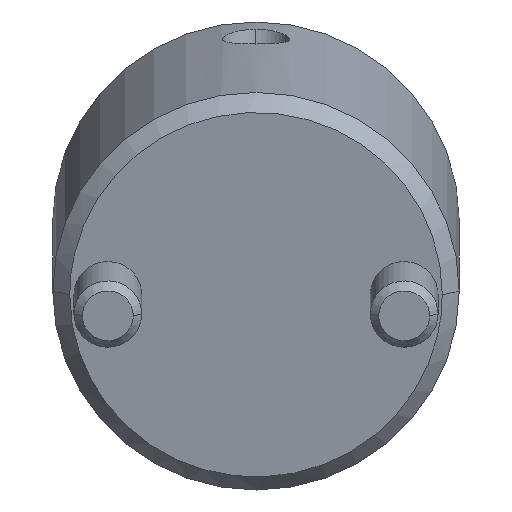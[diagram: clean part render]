
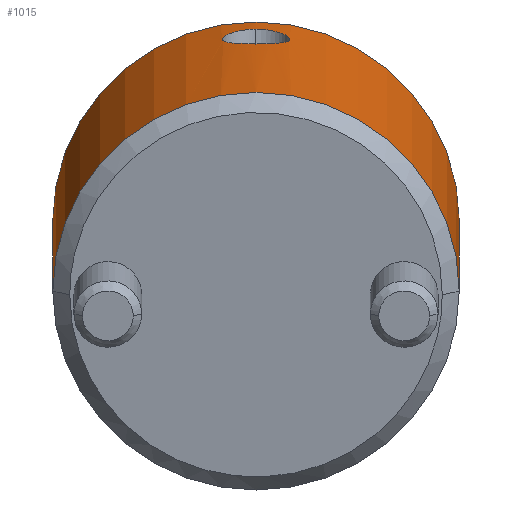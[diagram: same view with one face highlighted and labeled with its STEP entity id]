
A CAD part, front view. The second image highlights one B-rep face of the part: STEP entity #1015.
In plain terms, the highlighted cylindrical face has radius 12 mm (diameter 24 mm), a partial arc.
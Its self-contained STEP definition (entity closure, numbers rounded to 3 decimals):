
#778=CARTESIAN_POINT('Vertex',(0.,12.,1.)) ;
#781=CARTESIAN_POINT('Axis2P3D Location',(0.,0.,1.)) ;
#785=CARTESIAN_POINT('Vertex',(0.,-12.,1.)) ;
#925=CARTESIAN_POINT('Axis2P3D Location',(0.,0.,-1.1)) ;
#930=CARTESIAN_POINT('Line Origine',(0.,12.,-1.1)) ;
#934=CARTESIAN_POINT('Vertex',(0.,12.,21.)) ;
#937=CARTESIAN_POINT('Axis2P3D Location',(0.,0.,21.)) ;
#941=CARTESIAN_POINT('Vertex',(0.,-12.,21.)) ;
#944=CARTESIAN_POINT('Line Origine',(0.,-12.,-1.1)) ;
#956=CARTESIAN_POINT('Control Point',(12.,0.,18.948)) ;
#957=CARTESIAN_POINT('Control Point',(12.,0.344,18.948)) ;
#958=CARTESIAN_POINT('Control Point',(11.988,0.679,18.871)) ;
#959=CARTESIAN_POINT('Control Point',(11.964,0.999,18.717)) ;
#960=CARTESIAN_POINT('Control Point',(11.922,1.385,18.416)) ;
#961=CARTESIAN_POINT('Control Point',(11.884,1.669,18.018)) ;
#962=CARTESIAN_POINT('Control Point',(11.873,1.742,17.896)) ;
#963=CARTESIAN_POINT('Control Point',(11.854,1.867,17.64)) ;
#964=CARTESIAN_POINT('Control Point',(11.841,1.947,17.367)) ;
#965=CARTESIAN_POINT('Control Point',(11.836,1.976,17.226)) ;
#966=CARTESIAN_POINT('Control Point',(11.83,2.01,16.946)) ;
#967=CARTESIAN_POINT('Control Point',(11.833,1.997,16.665)) ;
#968=CARTESIAN_POINT('Control Point',(11.836,1.979,16.526)) ;
#969=CARTESIAN_POINT('Control Point',(11.846,1.919,16.253)) ;
#970=CARTESIAN_POINT('Control Point',(11.862,1.814,15.996)) ;
#971=CARTESIAN_POINT('Control Point',(11.872,1.751,15.874)) ;
#972=CARTESIAN_POINT('Control Point',(11.911,1.48,15.443)) ;
#973=CARTESIAN_POINT('Control Point',(11.957,1.082,15.11)) ;
#974=CARTESIAN_POINT('Control Point',(11.986,0.734,14.942)) ;
#975=CARTESIAN_POINT('Control Point',(12.,0.372,14.859)) ;
#976=CARTESIAN_POINT('Control Point',(12.,0.,14.859)) ;
#977=CARTESIAN_POINT('Vertex',(12.,0.,18.948)) ;
#979=CARTESIAN_POINT('Vertex',(12.,0.,14.859)) ;
#983=CARTESIAN_POINT('Control Point',(12.,0.,14.859)) ;
#984=CARTESIAN_POINT('Control Point',(12.,-0.139,14.859)) ;
#985=CARTESIAN_POINT('Control Point',(11.998,-0.277,14.87)) ;
#986=CARTESIAN_POINT('Control Point',(11.994,-0.413,14.894)) ;
#987=CARTESIAN_POINT('Control Point',(11.982,-0.682,14.964)) ;
#988=CARTESIAN_POINT('Control Point',(11.965,-0.934,15.08)) ;
#989=CARTESIAN_POINT('Control Point',(11.954,-1.056,15.149)) ;
#990=CARTESIAN_POINT('Control Point',(11.932,-1.283,15.305)) ;
#991=CARTESIAN_POINT('Control Point',(11.909,-1.48,15.498)) ;
#992=CARTESIAN_POINT('Control Point',(11.897,-1.569,15.603)) ;
#993=CARTESIAN_POINT('Control Point',(11.864,-1.812,15.942)) ;
#994=CARTESIAN_POINT('Control Point',(11.839,-1.961,16.335)) ;
#995=CARTESIAN_POINT('Control Point',(11.83,-2.014,16.615)) ;
#996=CARTESIAN_POINT('Control Point',(11.829,-2.021,17.04)) ;
#997=CARTESIAN_POINT('Control Point',(11.845,-1.924,17.454)) ;
#998=CARTESIAN_POINT('Control Point',(11.852,-1.881,17.589)) ;
#999=CARTESIAN_POINT('Control Point',(11.869,-1.771,17.852)) ;
#1000=CARTESIAN_POINT('Control Point',(11.891,-1.619,18.093)) ;
#1001=CARTESIAN_POINT('Control Point',(11.902,-1.532,18.208)) ;
#1002=CARTESIAN_POINT('Control Point',(11.931,-1.299,18.468)) ;
#1003=CARTESIAN_POINT('Control Point',(11.959,-1.018,18.673)) ;
#1004=CARTESIAN_POINT('Control Point',(11.973,-0.837,18.772)) ;
#1005=CARTESIAN_POINT('Control Point',(11.989,-0.56,18.88)) ;
#1006=CARTESIAN_POINT('Control Point',(11.997,-0.269,18.932)) ;
#1007=CARTESIAN_POINT('Control Point',(11.999,-0.18,18.943)) ;
#1008=CARTESIAN_POINT('Control Point',(12.,-0.09,18.948)) ;
#1009=CARTESIAN_POINT('Control Point',(12.,0.,18.948)) ;
#782=DIRECTION('Axis2P3D Direction',(0.,0.,1.)) ;
#926=DIRECTION('Axis2P3D Direction',(0.,-0.,1.)) ;
#927=DIRECTION('Axis2P3D XDirection',(0.,-1.,0.)) ;
#931=DIRECTION('Vector Direction',(0.,0.,1.)) ;
#938=DIRECTION('Axis2P3D Direction',(0.,-0.,1.)) ;
#945=DIRECTION('Vector Direction',(0.,0.,1.)) ;
#783=AXIS2_PLACEMENT_3D('Circle Axis2P3D',#781,#782,$) ;
#928=AXIS2_PLACEMENT_3D('Cylinder Axis2P3D',#925,#926,#927) ;
#939=AXIS2_PLACEMENT_3D('Circle Axis2P3D',#937,#938,$) ;
#950=ORIENTED_EDGE('',*,*,#936,.F.) ;
#951=ORIENTED_EDGE('',*,*,#943,.T.) ;
#952=ORIENTED_EDGE('',*,*,#948,.T.) ;
#953=ORIENTED_EDGE('',*,*,#787,.F.) ;
#1012=ORIENTED_EDGE('',*,*,#981,.T.) ;
#1013=ORIENTED_EDGE('',*,*,#1010,.T.) ;
#1014=FACE_BOUND('',#1011,.T.) ;
#932=VECTOR('Line Direction',#931,1.) ;
#946=VECTOR('Line Direction',#945,1.) ;
#1015=ADVANCED_FACE('MANIFOLD_SOLID_BREP #1096',(#954,#1014),#929,.T.) ;
#955=B_SPLINE_CURVE_WITH_KNOTS('',5,(#956,#957,#958,#959,#960,#961,#962,#963,#964,#965,#966,#967,#968,#969,#970,#971,#972,#973,#974,#975,#976),.UNSPECIFIED.,.F.,.U.,(6,3,3,3,3,3,6),(0.,2.427,3.431,4.427,5.412,6.39,9.01),.UNSPECIFIED.) ;
#982=B_SPLINE_CURVE_WITH_KNOTS('',5,(#983,#984,#985,#986,#987,#988,#989,#990,#991,#992,#993,#994,#995,#996,#997,#998,#999,#1000,#1001,#1002,#1003,#1004,#1005,#1006,#1007,#1008,#1009),.UNSPECIFIED.,.F.,.U.,(6,3,3,3,3,3,3,3,6),(0.,0.981,1.96,2.938,4.906,5.909,6.91,8.376,9.012),.UNSPECIFIED.) ;
#784=CIRCLE('generated circle',#783,12.) ;
#940=CIRCLE('generated circle',#939,12.) ;
#929=CYLINDRICAL_SURFACE('generated cylinder',#928,12.) ;
#787=EDGE_CURVE('',#779,#786,#784,.F.) ;
#936=EDGE_CURVE('',#935,#779,#933,.F.) ;
#943=EDGE_CURVE('',#935,#942,#940,.F.) ;
#948=EDGE_CURVE('',#942,#786,#947,.F.) ;
#981=EDGE_CURVE('',#978,#980,#955,.T.) ;
#1010=EDGE_CURVE('',#980,#978,#982,.T.) ;
#949=EDGE_LOOP('',(#950,#951,#952,#953)) ;
#1011=EDGE_LOOP('',(#1012,#1013)) ;
#954=FACE_OUTER_BOUND('',#949,.T.) ;
#933=LINE('Line',#930,#932) ;
#947=LINE('Line',#944,#946) ;
#779=VERTEX_POINT('',#778) ;
#786=VERTEX_POINT('',#785) ;
#935=VERTEX_POINT('',#934) ;
#942=VERTEX_POINT('',#941) ;
#978=VERTEX_POINT('',#977) ;
#980=VERTEX_POINT('',#979) ;
